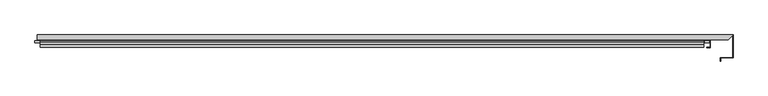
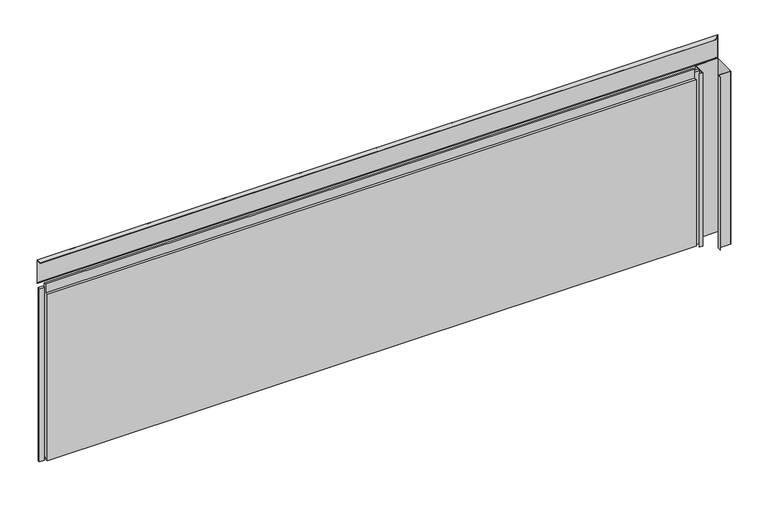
"""IFC4 building model written with IfcOpenShell, lengths in millimetres: plate geometry, Trimo_Qbiss Screen_Normal Panel-HORIZONTAL : HR - B."""

import ifcopenshell
import ifcopenshell.guid

model = None  # the IFC model being written
_history = None  # IfcOwnerHistory: only IFC2X3 demands one
_inside = {}  # id of a spatial element -> (the spatial element, [elements in it])
_under = {}  # id of a project, library or spatial element -> (it, [spatial elements below it])
_declared = {}  # id of a project -> (the project, [libraries it declares])
_typed = {}  # id of a type object -> (the type object, [elements of that type])
_made_of = {}  # id of a material, layer set ... -> (it, [elements and type objects made of it])


def new_model(schema):
    """Start an empty IFC model of exactly this schema.

    Asked for "IFC4X3", IfcOpenShell would pick the latest addendum, in which some entities
    have other attributes; the version numbers below select the first issue.
    IFC2X3 requires an IfcOwnerHistory on every rooted entity: one is made here for all.
    """
    global model, _history
    if schema == "IFC4X3":
        model = ifcopenshell.file(schema_version=(4, 3, 0, 0))
    else:
        model = ifcopenshell.file(schema=schema)
    _inside.clear()
    _under.clear()
    _declared.clear()
    _typed.clear()
    _made_of.clear()
    _history = None
    if model.schema == "IFC2X3":
        org = make("IfcOrganization", Name="unknown")
        user = make(
            "IfcPersonAndOrganization",
            ThePerson=make("IfcPerson", FamilyName="unknown"),
            TheOrganization=org,
        )
        app = make(
            "IfcApplication",
            ApplicationDeveloper=org,
            Version="unknown",
            ApplicationFullName="unknown",
            ApplicationIdentifier="unknown",
        )
        _history = make(
            "IfcOwnerHistory",
            OwningUser=user,
            OwningApplication=app,
            ChangeAction="ADDED",
            CreationDate=0,
        )
    return model


def make(cls, **values):
    """One entity of the class cls with the attributes given. An attribute that is None is left unset."""
    return model.create_entity(
        cls, **{name: value for name, value in values.items() if value is not None}
    )


def rooted(cls, **values):
    """An entity with a GlobalId (a new one), such as an element, a storey or a relation."""
    return make(cls, GlobalId=ifcopenshell.guid.new(), OwnerHistory=_history, **values)


def si_unit(unit_type, name, prefix=None):
    """IfcSIUnit, for example si_unit("LENGTHUNIT", "METRE", prefix="MILLI")."""
    return make("IfcSIUnit", UnitType=unit_type, Prefix=prefix, Name=name)


def assignment(units):
    """IfcUnitAssignment: the units of a project."""
    return None if units is None else make("IfcUnitAssignment", Units=units)


def point(xyz):
    """IfcCartesianPoint."""
    return None if xyz is None else make("IfcCartesianPoint", Coordinates=xyz)


def direction(xyz):
    """IfcDirection."""
    return None if xyz is None else make("IfcDirection", DirectionRatios=xyz)


def frame(location, z_axis=None, x_axis=None):
    """IfcAxis2Placement3D, a coordinate frame: its origin and axes. An axis left out is left unset."""
    return make(
        "IfcAxis2Placement3D",
        Location=point(location),
        Axis=direction(z_axis),
        RefDirection=direction(x_axis),
    )


def origin():
    """The frame at (0, 0, 0) with its axes left unset."""
    return frame((0.0, 0.0, 0.0))


def place(relative_to, where):
    """IfcLocalPlacement: puts the frame where relative to a parent placement (None: the world)."""
    return make(
        "IfcLocalPlacement", PlacementRelTo=relative_to, RelativePlacement=where
    )


def context(
    kind, dimensions, precision=None, world=None, true_north=None, identifier=None
):
    """IfcGeometricRepresentationContext, for example the 3D "Model" context."""
    return make(
        "IfcGeometricRepresentationContext",
        ContextIdentifier=identifier,
        ContextType=kind,
        CoordinateSpaceDimension=dimensions,
        Precision=precision,
        WorldCoordinateSystem=world,
        TrueNorth=true_north,
    )


def project(units=None, contexts=None):
    """IfcProject with its units and contexts."""
    return rooted(
        "IfcProject",
        Name="project",
        RepresentationContexts=contexts,
        UnitsInContext=assignment(units),
    )


def spatial(cls, under=None, at=None, **own):
    """A site, building, storey or space (cls), placed at a placement, below another one or the project."""
    s = rooted(cls, ObjectPlacement=at, **own)
    if under is not None:
        _under.setdefault(under.id(), (under, []))[1].append(s)
    return s


def polyline(points):
    """IfcPolyline through the points."""
    return make("IfcPolyline", Points=[point(p) for p in points])


def outline(outer, holes=None, kind="AREA"):
    """IfcArbitraryClosedProfileDef: a profile drawn as a closed curve; with holes, ...WithVoids."""
    if holes is None:
        return make("IfcArbitraryClosedProfileDef", ProfileType=kind, OuterCurve=outer)
    return make(
        "IfcArbitraryProfileDefWithVoids",
        ProfileType=kind,
        OuterCurve=outer,
        InnerCurves=holes,
    )


def extrude(swept, where, along, depth):
    """IfcExtrudedAreaSolid: the profile swept, set in the frame where, extruded along a direction by depth."""
    return make(
        "IfcExtrudedAreaSolid",
        SweptArea=swept,
        Position=where,
        ExtrudedDirection=direction(along),
        Depth=depth,
    )


def faces_of(points, faces, orient=None, outer=None):
    """IfcFace entities. A face is a list of loops; a loop is a list of indices into points, from 0.

    orient and outer hold one flag for each loop. By default every Orientation is true, the
    first loop of a face is its IfcFaceOuterBound and the others are IfcFaceBound.
    """
    made = []
    for i, loops in enumerate(faces):
        bounds = []
        for j, loop in enumerate(loops):
            is_outer = j == 0 if outer is None else outer[i][j]
            bounds.append(
                make(
                    "IfcFaceOuterBound" if is_outer else "IfcFaceBound",
                    Bound=make("IfcPolyLoop", Polygon=[points[k] for k in loop]),
                    Orientation=True if orient is None else orient[i][j],
                )
            )
        made.append(make("IfcFace", Bounds=bounds))
    return made


def faceted_brep(points, faces, orient=None, outer=None, voids=None):
    """IfcFacetedBrep: a solid bounded by flat faces; with voids (closed shells), ...WithVoids."""
    shared = [point(p) for p in points]
    hull = make("IfcClosedShell", CfsFaces=faces_of(shared, faces, orient, outer))
    if voids is None:
        return make("IfcFacetedBrep", Outer=hull)
    return make(
        "IfcFacetedBrepWithVoids",
        Outer=hull,
        Voids=[
            make(cls, CfsFaces=faces_of(shared, fs, o, b)) for cls, fs, o, b in voids
        ],
    )


def shape(context_of_items, identifier, shape_type, items):
    """IfcShapeRepresentation: the items that make up one representation, for example the "Body"."""
    return make(
        "IfcShapeRepresentation",
        ContextOfItems=context_of_items,
        RepresentationIdentifier=identifier,
        RepresentationType=shape_type,
        Items=items,
    )


def source(mapping_origin, context_of_items, identifier, shape_type, items):
    """IfcRepresentationMap: a shape defined once, which mapped items show again and again."""
    return make(
        "IfcRepresentationMap",
        MappingOrigin=mapping_origin,
        MappedRepresentation=shape(context_of_items, identifier, shape_type, items),
    )


def transform(
    local_origin,
    x_axis=None,
    y_axis=None,
    z_axis=None,
    scale=None,
    scale2=None,
    scale3=None,
    uniform=True,
):
    """IfcCartesianTransformationOperator3D, or its non-uniform kind. x_axis, y_axis, z_axis: its Axis1, 2, 3."""
    if uniform:
        return make(
            "IfcCartesianTransformationOperator3D",
            Axis1=direction(x_axis),
            Axis2=direction(y_axis),
            LocalOrigin=point(local_origin),
            Scale=scale,
            Axis3=direction(z_axis),
        )
    return make(
        "IfcCartesianTransformationOperator3DnonUniform",
        Axis1=direction(x_axis),
        Axis2=direction(y_axis),
        LocalOrigin=point(local_origin),
        Scale=scale,
        Axis3=direction(z_axis),
        Scale2=scale2,
        Scale3=scale3,
    )


def mapped(mapping_source, mapping_target):
    """IfcMappedItem: shows the shape of a source again, moved by a transform."""
    return make(
        "IfcMappedItem", MappingSource=mapping_source, MappingTarget=mapping_target
    )


def made_of(thing, what):
    """Note that an element or type object is made of a material, layer set ...; save() writes the relation."""
    if what is not None:
        _made_of.setdefault(what.id(), (what, []))[1].append(thing)
    return thing


def element(
    cls,
    number,
    at=None,
    inside=None,
    cuts=None,
    type_object=None,
    material=None,
    context=None,
    identifier="Body",
    shape_type=None,
    held_by="IfcProductDefinitionShape",
    body=None,
    shapes=None,
    **own,
):
    """One element of the class cls, such as IfcWall. Its Tag is "e" and its number.

    at: its placement. inside: the storey or other place that contains it. cuts: it is an
    opening in that element (IfcRelVoidsElement). A single representation is given by context,
    identifier, shape_type and body (its items); several are given by shapes. held_by: the class
    of the entity that holds the representations. save() writes the other relations.
    """
    e = rooted(cls, Tag="e%d" % number, ObjectPlacement=at, **own)
    if body is not None:
        shapes = [shape(context, identifier, shape_type, body)]
    if shapes is not None:
        e.Representation = make(held_by, Representations=shapes)
    if inside is not None:
        _inside.setdefault(inside.id(), (inside, []))[1].append(e)
    if cuts is not None:
        rooted(
            "IfcRelVoidsElement", RelatingBuildingElement=cuts, RelatedOpeningElement=e
        )
    if type_object is not None:
        _typed.setdefault(type_object.id(), (type_object, []))[1].append(e)
    return made_of(e, material)


def aggregate(whole, parts):
    """IfcRelAggregates: a whole, such as a stair, and the parts it consists of."""
    return rooted("IfcRelAggregates", RelatingObject=whole, RelatedObjects=parts)


def save(model, path):
    """Write the relations noted so far, then the file.

    IfcRelAggregates (storeys below a building ...), IfcRelContainedInSpatialStructure (elements
    in a storey), IfcRelDefinesByType, IfcRelAssociatesMaterial and IfcRelDeclares: one each for
    every whole, place, type object, material and project.
    """
    for whole, parts in _under.values():
        aggregate(whole, parts)
    for where, things in _inside.values():
        rooted(
            "IfcRelContainedInSpatialStructure",
            RelatedElements=things,
            RelatingStructure=where,
        )
    for kind, things in _typed.values():
        rooted("IfcRelDefinesByType", RelatedObjects=things, RelatingType=kind)
    for what, things in _made_of.values():
        rooted("IfcRelAssociatesMaterial", RelatedObjects=things, RelatingMaterial=what)
    for by, libraries in _declared.values():
        rooted("IfcRelDeclares", RelatingContext=by, RelatedDefinitions=libraries)
    model.write(path)


def plate_2dd1b4a8(model_context):
    return source(origin(), model_context, "Body", "SolidModel", [
        faceted_brep([(1427.1078644, 85.8578644, 762.3421356), (1441.25, 100.0, 748.2), (1441.25, 100.0, 848.2), (1421.3192781, 80.0692781, 847.1554751), (1421.3192781, 80.0692781, 846.3543772), (1440.45, 99.2, 847.3569759), (1440.45, 99.2, 750.1313708), (1427.6735498, 86.4235498, 762.907821), (-1341.25, 85.8578644, 762.3421356), (-1341.25, 100.0, 748.2), (-1341.25, 86.4235498, 762.907821), (-1341.25, 99.2, 750.1313708), (-1341.25, 99.2, 847.3569759), (-1341.25, 80.0692781, 846.3543772), (-1341.25, 80.0692781, 847.1554751), (-1341.25, 100.0, 848.2)], [[[0, 1, 2, 3, 4, 5, 6, 7]], [[1, 0, 8, 9]], [[0, 7, 10, 8]], [[7, 6, 11, 10]], [[6, 5, 12, 11]], [[5, 4, 13, 12]], [[4, 3, 14, 13]], [[3, 2, 15, 14]], [[2, 1, 9, 15]], [[9, 8, 10, 11, 12, 13, 14, 15]]]),
        extrude(outline(polyline([(-1331.75, 76.5978162), (-1331.75, 67.8978162), (-1350.75, 67.8978162), (-1350.75, 76.5978162), (-1331.75, 76.5978162)])), frame((0.0, 0.0, -1.0), z_axis=(0.0, 0.0, 1.0), x_axis=(1.0, 0.0, 0.0)), (0.0, 0.0, 1.0), 748.2),
        extrude(outline(polyline([(1327.25, 67.8978162), (1327.25, 76.5978162), (1346.25, 76.5978162), (1346.25, 67.8978162), (1327.25, 67.8978162)])), frame((0.0, 0.0, -1.0), z_axis=(0.0, 0.0, 1.0), x_axis=(1.0, 0.0, 0.0)), (0.0, 0.0, 1.0), 748.2),
        extrude(outline(polyline([(1324.25, 76.0), (1324.25, 71.0), (-1328.75, 71.0), (-1328.75, 76.0), (1324.25, 76.0)])), frame((0.0, 0.0, 726.2), z_axis=(0.0, 0.0, 1.0), x_axis=(1.0, 0.0, 0.0)), (0.0, 0.0, 1.0), 21.0),
        extrude(outline(polyline([(71.0, 725.2), (100.0, 725.2), (100.0, 0.0), (72.0, 0.0), (72.0, 15.5), (62.0, 15.5), (62.0, 7.0), (50.0, 7.0), (50.0, 725.2), (63.0, 725.2), (63.0, 762.7), (71.0, 762.7), (71.0, 725.2)])), frame((-1328.75, 0.0, 0.0), z_axis=(1.0, 0.0, 0.0), x_axis=(0.0, 1.0, 0.0)), (0.0, 0.0, 1.0), 2653.0),
        extrude(outline(polyline([(1349.25, 50.0), (1349.25, 100.0), (1441.25, 100.0), (1441.25, 8.0), (1391.25, 8.0), (1391.25, -4.5), (1390.45, -4.5), (1390.45, 8.8), (1440.45, 8.8), (1440.45, 99.2), (1350.05, 99.2), (1350.05, 49.1823429), (1336.75, 49.1823429), (1336.75, 50.0), (1349.25, 50.0)])), frame((0.0, 0.0, -1.0), z_axis=(0.0, 0.0, 1.0), x_axis=(1.0, 0.0, 0.0)), (0.0, 0.0, 1.0), 748.2),
    ])


if __name__ == "__main__":
    model = new_model("IFC4")
    model_context = context("Model", 3, world=origin())
    ifc_project = project(units=[si_unit("LENGTHUNIT", "METRE", prefix="MILLI")], contexts=[model_context])
    site = spatial("IfcSite", under=ifc_project)
    building = spatial("IfcBuilding", under=site)
    placement = place(None, origin())
    plate_shape = plate_2dd1b4a8(model_context)
    element("IfcPlate", 1, ObjectType="Trimo_Qbiss Screen_Normal Panel-HORIZONTAL : HR - B", at=placement, inside=building, context=model_context, shape_type="MappedRepresentation", body=[
        mapped(plate_shape, transform((0.0, 0.0, 0.0), x_axis=(1.0, 0.0, 0.0), y_axis=(0.0, 1.0, 0.0), z_axis=(0.0, 0.0, 1.0))),
    ])
    save(model, "model.ifc")
